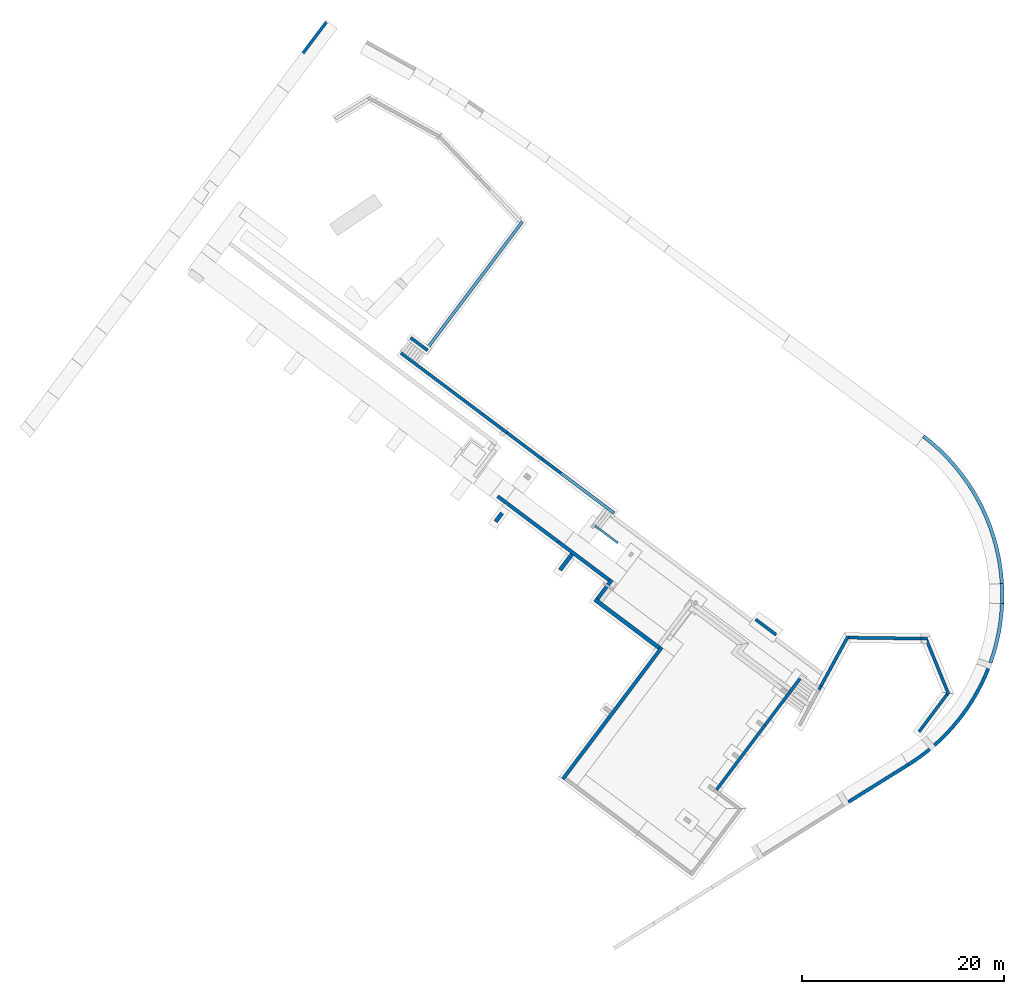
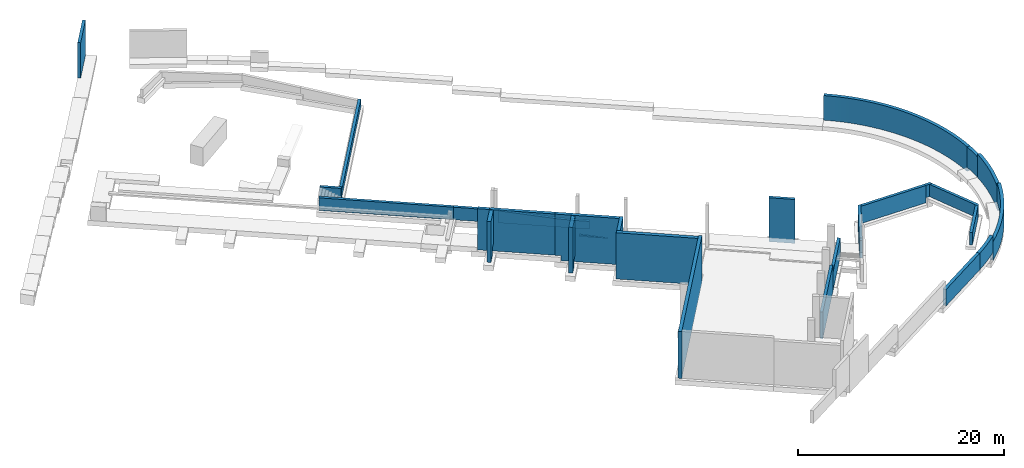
# One storey, part 5 of 9: 30 walls, 4 openings.
"""IFC2X3 building model written with IfcOpenShell, lengths in metres."""

from ifc_helpers import new_model, entity, si_unit, converted_unit, derived_unit, direction, frame, frame_2d, origin, place, context, subcontext, project, spatial, polyline, circle_curve, parameter, trimmed, segment, composite_curve, rectangle, outline, extrude, clip, halfspace, bounded_halfspace, material, layer, layer_set, layer_usage, type_object, element, save


model = new_model("IFC2X3")

# Units and contexts
model_context = context("Model", 3, precision=1e-05, world=origin(), true_north=direction((6.123031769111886e-17, 1.0)))
body_context = subcontext(model_context, "Body", "Model", "MODEL_VIEW")
ifc_project = project(units=[si_unit("LENGTHUNIT", "METRE"), si_unit("AREAUNIT", "SQUARE_METRE"), si_unit("VOLUMEUNIT", "CUBIC_METRE"), converted_unit("PLANEANGLEUNIT", "DEGREE", entity("IfcRatioMeasure", 0.017453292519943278), si_unit("PLANEANGLEUNIT", "RADIAN"), dimensions=[0, 0, 0, 0, 0, 0, 0]), si_unit("MASSUNIT", "GRAM", prefix="KILO"), derived_unit("MASSDENSITYUNIT", [(si_unit("MASSUNIT", "GRAM", prefix="KILO"), 1), (si_unit("LENGTHUNIT", "METRE"), -3)]), derived_unit("IONCONCENTRATIONUNIT", [(si_unit("MASSUNIT", "GRAM", prefix="KILO"), 1), (si_unit("LENGTHUNIT", "METRE"), -3)]), derived_unit("MOMENTOFINERTIAUNIT", [(si_unit("LENGTHUNIT", "METRE"), 4)]), si_unit("TIMEUNIT", "SECOND"), si_unit("FREQUENCYUNIT", "HERTZ"), si_unit("THERMODYNAMICTEMPERATUREUNIT", "DEGREE_CELSIUS"), derived_unit("THERMALTRANSMITTANCEUNIT", [(si_unit("MASSUNIT", "GRAM", prefix="KILO"), 1), (si_unit("THERMODYNAMICTEMPERATUREUNIT", "KELVIN"), -1), (si_unit("TIMEUNIT", "SECOND"), -3)]), derived_unit("THERMALCONDUCTANCEUNIT", [(si_unit("MASSUNIT", "GRAM", prefix="KILO"), 1), (si_unit("THERMODYNAMICTEMPERATUREUNIT", "KELVIN"), -1), (si_unit("TIMEUNIT", "SECOND"), -3), (si_unit("LENGTHUNIT", "METRE"), 1)]), derived_unit("VOLUMETRICFLOWRATEUNIT", [(si_unit("LENGTHUNIT", "METRE"), 3), (si_unit("TIMEUNIT", "SECOND"), -1)]), derived_unit("MASSFLOWRATEUNIT", [(si_unit("MASSUNIT", "GRAM", prefix="KILO"), 1), (si_unit("TIMEUNIT", "SECOND"), -1)]), derived_unit("ROTATIONALFREQUENCYUNIT", [(si_unit("TIMEUNIT", "SECOND"), -1)]), si_unit("ELECTRICCURRENTUNIT", "AMPERE"), si_unit("ELECTRICVOLTAGEUNIT", "VOLT"), si_unit("POWERUNIT", "WATT"), si_unit("FORCEUNIT", "NEWTON", prefix="KILO"), si_unit("ILLUMINANCEUNIT", "LUX"), si_unit("LUMINOUSFLUXUNIT", "LUMEN"), si_unit("LUMINOUSINTENSITYUNIT", "CANDELA"), derived_unit("USERDEFINED", [(si_unit("MASSUNIT", "GRAM", prefix="KILO"), -1), (si_unit("LENGTHUNIT", "METRE"), -2), (si_unit("TIMEUNIT", "SECOND"), 3), (si_unit("LUMINOUSFLUXUNIT", "LUMEN"), 1)]), derived_unit("USERDEFINED", [(si_unit("MASSUNIT", "GRAM", prefix="KILO"), 1), (si_unit("TIMEUNIT", "SECOND"), -3), (si_unit("LENGTHUNIT", "METRE"), 3), (si_unit("ELECTRICCURRENTUNIT", "AMPERE"), -2)]), derived_unit("SOUNDPOWERUNIT", [(si_unit("MASSUNIT", "GRAM", prefix="KILO"), 1), (si_unit("TIMEUNIT", "SECOND"), -3), (si_unit("LENGTHUNIT", "METRE"), 2)]), derived_unit("SOUNDPRESSUREUNIT", [(si_unit("MASSUNIT", "GRAM", prefix="KILO"), 1), (si_unit("LENGTHUNIT", "METRE"), -1), (si_unit("TIMEUNIT", "SECOND"), -2)]), derived_unit("LINEARVELOCITYUNIT", [(si_unit("LENGTHUNIT", "METRE"), 1), (si_unit("TIMEUNIT", "SECOND"), -1)]), si_unit("PRESSUREUNIT", "PASCAL"), derived_unit("USERDEFINED", [(si_unit("MASSUNIT", "GRAM", prefix="KILO"), 1), (si_unit("LENGTHUNIT", "METRE"), -2), (si_unit("TIMEUNIT", "SECOND"), -2)]), derived_unit("LINEARFORCEUNIT", [(si_unit("MASSUNIT", "GRAM", prefix="KILO"), 1), (si_unit("TIMEUNIT", "SECOND"), -2)]), derived_unit("PLANARFORCEUNIT", [(si_unit("MASSUNIT", "GRAM", prefix="KILO"), 1), (si_unit("LENGTHUNIT", "METRE"), -1), (si_unit("TIMEUNIT", "SECOND"), -2)]), derived_unit("SPECIFICHEATCAPACITYUNIT", [(si_unit("THERMODYNAMICTEMPERATUREUNIT", "KELVIN"), -1), (si_unit("LENGTHUNIT", "METRE"), 2), (si_unit("TIMEUNIT", "SECOND"), -2)]), derived_unit("HEATINGVALUEUNIT", [(si_unit("LENGTHUNIT", "METRE"), 2), (si_unit("TIMEUNIT", "SECOND"), -2)]), derived_unit("VAPORPERMEABILITYUNIT", [(si_unit("LENGTHUNIT", "METRE"), -1), (si_unit("TIMEUNIT", "SECOND"), 1)]), derived_unit("DYNAMICVISCOSITYUNIT", [(si_unit("MASSUNIT", "GRAM", prefix="KILO"), 1), (si_unit("TIMEUNIT", "SECOND"), -1), (si_unit("LENGTHUNIT", "METRE"), -1)]), derived_unit("THERMALEXPANSIONCOEFFICIENTUNIT", [(si_unit("THERMODYNAMICTEMPERATUREUNIT", "KELVIN"), -1)]), derived_unit("MODULUSOFELASTICITYUNIT", [(si_unit("MASSUNIT", "GRAM", prefix="KILO"), 1), (si_unit("LENGTHUNIT", "METRE"), -1), (si_unit("TIMEUNIT", "SECOND"), -2)]), derived_unit("ISOTHERMALMOISTURECAPACITYUNIT", [(si_unit("LENGTHUNIT", "METRE"), 3), (si_unit("MASSUNIT", "GRAM", prefix="KILO"), -1)]), derived_unit("MOISTUREDIFFUSIVITYUNIT", [(si_unit("TIMEUNIT", "SECOND"), -1), (si_unit("LENGTHUNIT", "METRE"), 2)])], contexts=[model_context])

# Site, building, storey
site_placement = place(None, origin())
site = spatial("IfcSite", under=ifc_project, at=site_placement, Name="Default", CompositionType="ELEMENT")
building_placement = place(site_placement, frame((0.0, 0.0, 235.0), z_axis=(0.0, 0.0, 1.0), x_axis=(-0.7996477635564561, 0.6004693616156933, 0.0)))
building = spatial("IfcBuilding", under=site, at=building_placement, CompositionType="ELEMENT")
storey_placement = place(building_placement, frame((0.0, 0.0, -5.4499999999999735)))
storey = spatial("IfcBuildingStorey", under=building, at=storey_placement, Name="PS1- Gimnàs", CompositionType="ELEMENT", Elevation=-5.4499999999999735)

# Walls
ifc_material = material(Name="_Formigó- T1- STR")
ifc_layer_1 = layer(ifc_material, 0.29999999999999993)
ifc_layer_set_1 = layer_set([ifc_layer_1], Name="Muro básico:STR- M- Formigó- Genèric- T1- 30 cm")
ifc_layer_usage_1 = layer_usage(ifc_layer_set_1, "AXIS2", "NEGATIVE", 0.14999999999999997)
wall_type_1 = type_object("IfcWallType", Name="Muro básico:STR- M- Formigó- Genèric- T1- 30 cm", PredefinedType="STANDARD", material=ifc_layer_set_1)
wall_1_placement = place(storey_placement, frame((2.9951476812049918, -26.33998938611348, -0.5500000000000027), z_axis=(0.0, 0.0, 1.0), x_axis=(0.0, -1.0, 0.0)))
element("IfcWallStandardCase", 1, at=wall_1_placement, inside=storey, type_object=wall_type_1, material=ifc_layer_usage_1, Name="Muro básico:STR- M- Formigó- Genèric- T1- 30 cm", ObjectType="Muro básico:STR- M- Formigó- Genèric- T1- 30 cm", context=body_context, shape_type="SweptSolid", body=[
    extrude(rectangle(XDim=8.050202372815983, YDim=0.30000000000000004, at=frame_2d((4.0251011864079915, 5.551115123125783e-17), x_axis=(-1.0, 0.0))), origin(), (0.0, 0.0, 1.0), 3.1659999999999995),
])
wall_2_placement = place(storey_placement, frame((0.887647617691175, -40.77661931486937, -0.5500000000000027), z_axis=(0.0, 0.0, 1.0), x_axis=(0.14461846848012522, -0.9894874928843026, 0.0)))
element("IfcWallStandardCase", 2, at=wall_2_placement, inside=storey, type_object=wall_type_1, material=ifc_layer_usage_1, Name="Muro básico:STR- M- Formigó- Genèric- T1- 30 cm", ObjectType="Muro básico:STR- M- Formigó- Genèric- T1- 30 cm", context=body_context, shape_type="SweptSolid", body=[
    extrude(outline(polyline([(5.7387059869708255, -0.15000000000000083), (5.580486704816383, 0.15000000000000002), (0.0, 0.14999999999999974), (0.0, -0.15000000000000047), (5.399540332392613, -0.15000000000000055), (5.7387059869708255, -0.15000000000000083)])), origin(), (0.0, 0.0, 1.0), 2.0599999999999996),
])
wall_3_placement = place(storey_placement, frame((1.6085242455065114, -46.26225387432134, -0.5500000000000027), z_axis=(0.0, 0.0, 1.0), x_axis=(-0.8077610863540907, -0.5895099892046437, 0.0)))
element("IfcWallStandardCase", 3, at=wall_3_placement, inside=storey, type_object=wall_type_1, material=ifc_layer_usage_1, Name="Muro básico:STR- M- Formigó- Genèric- T1- 30 cm", ObjectType="Muro básico:STR- M- Formigó- Genèric- T1- 30 cm", context=body_context, shape_type="SweptSolid", body=[
    extrude(outline(polyline([(7.21796286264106, -0.14999999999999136), (7.217962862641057, 0.15000000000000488), (0.15821928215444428, 0.150000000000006), (0.0, -0.14999999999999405), (7.21796286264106, -0.14999999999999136)])), origin(), (0.0, 0.0, 1.0), 2.0599999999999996),
])
wall_4_placement = place(storey_placement, frame((-4.711484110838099, -50.76130763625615, 0.0499999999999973), z_axis=(0.0, 0.0, 1.0), x_axis=(-0.8576796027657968, 0.5141844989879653, 0.0)))
element("IfcWallStandardCase", 4, at=wall_4_placement, inside=storey, type_object=wall_type_1, material=ifc_layer_usage_1, Name="Muro básico:STR- M- Formigó- Genèric- T1- 30 cm", ObjectType="Muro básico:STR- M- Formigó- Genèric- T1- 30 cm", context=body_context, shape_type="SweptSolid", body=[
    extrude(outline(polyline([(5.981547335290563, -0.15000000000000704), (5.8016953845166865, 0.15000000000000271), (0.12693971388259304, 0.14999999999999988), (0.0, -0.15000000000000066), (5.6317663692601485, -0.1500000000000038), (5.981547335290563, -0.15000000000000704)])), origin(), (0.0, 0.0, 1.0), 1.4599999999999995),
])
wall_5_placement = place(storey_placement, frame((-9.614607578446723, -47.73688872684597, 0.0499999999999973), z_axis=(0.0, 0.0, 1.0), x_axis=(0.0, 1.0, 0.0)))
element("IfcWallStandardCase", 5, at=wall_5_placement, inside=storey, type_object=wall_type_1, material=ifc_layer_usage_1, Name="Muro básico:STR- M- Formigó- Genèric- T1- 30 cm", ObjectType="Muro básico:STR- M- Formigó- Genèric- T1- 30 cm", context=body_context, shape_type="SweptSolid", body=[
    extrude(outline(polyline([(4.7300733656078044, -0.15000000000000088), (4.7300733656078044, 0.14999999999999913), (0.17985195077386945, 0.1499999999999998), (0.0, -0.15000000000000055), (4.7300733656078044, -0.15000000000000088)])), origin(), (0.0, 0.0, 1.0), 1.4599999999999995),
])

# Wall, opening
wall_6_placement = place(storey_placement, frame((27.602044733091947, -42.190189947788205, -0.5500000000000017)))
wall_6 = element("IfcWallStandardCase", 6, at=wall_6_placement, inside=storey, type_object=wall_type_1, material=ifc_layer_usage_1, Name="Muro básico:STR- M- Formigó- Genèric- T1- 30 cm", ObjectType="Muro básico:STR- M- Formigó- Genèric- T1- 30 cm", context=body_context, shape_type="Clipping", body=[
    clip(extrude(rectangle(XDim=8.899999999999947, YDim=0.3000000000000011, at=frame_2d((4.4499999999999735, 1.1796119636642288e-15), x_axis=(-1.0, 0.0))), origin(), (0.0, 0.0, 1.0), 1.4299999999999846), halfspace(frame((8.899999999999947, 0.0, 1.429999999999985), z_axis=(-0.057209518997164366, 0.0, 0.9983621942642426), x_axis=(0.0, 1.0, 0.0)), False)),
])
opening_1_placement = place(wall_6_placement, origin())
element("IfcOpeningElement", 7, at=opening_1_placement, cuts=wall_6, Name="Muro básico:STR- M- Formigó- Genèric- T1- 30 cm", ObjectType="Opening", context=body_context, shape_type="SweptSolid", body=[
    extrude(outline(polyline([(-5.7370771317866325, -0.04686132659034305), (3.177523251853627, -0.04686132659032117), (2.278997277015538, 0.004627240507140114), (0.28055660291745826, 0.0890954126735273), (-5.7370771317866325, -0.04686132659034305)])), frame((3.1750000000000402, 0.15000000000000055, 1.0549999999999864), z_axis=(0.0, -1.0, 0.0), x_axis=(-0.9983621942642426, 0.0, -0.057209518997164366)), (0.0, 0.0, 1.0), 0.2999999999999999),
])

# Walls
wall_7_placement = place(storey_placement, frame((-4.221865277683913, -50.51731508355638, 0.0499999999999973), z_axis=(0.0, 0.0, 1.0), x_axis=(-0.8077610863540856, -0.5895099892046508, 0.0)))
element("IfcWallStandardCase", 8, at=wall_7_placement, inside=storey, type_object=wall_type_1, material=ifc_layer_usage_1, Name="Muro básico:STR- M- Formigó- Genèric- T1- 30 cm", ObjectType="Muro básico:STR- M- Formigó- Genèric- T1- 30 cm", context=body_context, shape_type="SweptSolid", body=[
    extrude(outline(polyline([(0.7269397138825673, -0.14999999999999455), (0.5999999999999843, 0.15000000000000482), (0.0, 0.15000000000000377), (0.0, -0.14999999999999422), (0.40118874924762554, -0.14999999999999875), (0.7269397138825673, -0.14999999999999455)])), origin(), (0.0, 0.0, 1.0), 1.4599999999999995),
])
wall_8_placement = place(storey_placement, frame((0.8279988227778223, -40.368498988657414, -0.5500000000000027), z_axis=(0.0, 0.0, 1.0), x_axis=(0.14461846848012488, -0.9894874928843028, 0.0)))
element("IfcWallStandardCase", 9, at=wall_8_placement, inside=storey, type_object=wall_type_1, material=ifc_layer_usage_1, Name="Muro básico:STR- M- Formigó- Genèric- T1- 30 cm", ObjectType="Muro básico:STR- M- Formigó- Genèric- T1- 30 cm", context=body_context, shape_type="Clipping", body=[
    clip(extrude(rectangle(XDim=0.41245627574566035, YDim=0.30000000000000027, at=frame_2d((0.20622813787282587, 6.245004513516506e-16), x_axis=(-1.0, 0.0))), origin(), (0.0, 0.0, 1.0), 2.0599999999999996), bounded_halfspace(frame((0.0, -0.14999999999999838, 0.0), z_axis=(0.9894874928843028, -0.14461846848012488, 0.0), x_axis=(0.0, 0.0, -1.0)), True, frame((0.0, -0.14999999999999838, 0.0), z_axis=(0.9894874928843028, -0.14461846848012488, 0.0), x_axis=(0.0, 0.0, -1.0)), polyline([(0.0, 0.0), (0.0, 0.3031872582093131), (-2.06, 0.3031872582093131), (-2.06, 0.0), (0.0, 0.0)]))),
])
wall_9_placement = place(storey_placement, frame((36.50204473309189, -42.19018994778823, -0.5500000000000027)))
element("IfcWallStandardCase", 10, at=wall_9_placement, inside=storey, type_object=wall_type_1, material=ifc_layer_usage_1, Name="Muro básico:STR- M- Formigó- Genèric- T1- 30 cm", ObjectType="Muro básico:STR- M- Formigó- Genèric- T1- 30 cm", context=body_context, shape_type="Clipping", body=[
    clip(clip(extrude(rectangle(XDim=4.400000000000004, YDim=0.3000000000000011, at=frame_2d((2.200000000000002, 0.0), x_axis=(-1.0, 0.0))), origin(), (0.0, 0.0, 1.0), 1.490799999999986), halfspace(frame((0.0, -0.15000000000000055, 1.4319999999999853), z_axis=(-0.019996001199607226, 0.0, 0.999800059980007), x_axis=(0.0, 1.0, 0.0)), False)), halfspace(frame((2.939999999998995, -0.15000000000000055, 1.490799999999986), z_axis=(0.0005479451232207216, 0.0, 0.9999998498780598), x_axis=(0.0, 1.0, 0.0)), False)),
])
wall_10_placement = place(storey_placement, frame((40.9020447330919, -42.19018994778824, -0.5500000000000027)))
element("IfcWallStandardCase", 11, at=wall_10_placement, inside=storey, type_object=wall_type_1, material=ifc_layer_usage_1, Name="Muro básico:STR- M- Formigó- Genèric- T1- 30 cm", ObjectType="Muro básico:STR- M- Formigó- Genèric- T1- 30 cm", context=body_context, shape_type="SweptSolid", body=[
    extrude(rectangle(XDim=13.149999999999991, YDim=0.3000000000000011, at=frame_2d((6.574999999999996, 0.0), x_axis=(-1.0, 0.0))), origin(), (0.0, 0.0, 1.0), 1.4899999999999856),
])
wall_11_placement = place(storey_placement, frame((52.09514768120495, -43.990191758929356, -0.44999999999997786)))
element("IfcWallStandardCase", 12, at=wall_11_placement, inside=storey, type_object=wall_type_1, material=ifc_layer_usage_1, Name="Muro básico:STR- M- Formigó- Genèric- T1- 30 cm", ObjectType="Muro básico:STR- M- Formigó- Genèric- T1- 30 cm", context=body_context, shape_type="SweptSolid", body=[
    extrude(rectangle(XDim=2.099999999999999, YDim=0.3000000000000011, at=frame_2d((1.0499999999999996, 2.067790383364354e-15), x_axis=(-1.0, 0.0))), origin(), (0.0, 0.0, 1.0), 1.4199999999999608),
])
wall_12_placement = place(storey_placement, frame((52.24514768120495, -44.140191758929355, -0.44999999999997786), z_axis=(0.0, 0.0, 1.0), x_axis=(0.0, -1.0, 0.0)))
element("IfcWallStandardCase", 13, at=wall_12_placement, inside=storey, type_object=wall_type_1, material=ifc_layer_usage_1, Name="Muro básico:STR- M- Formigó- Genèric- T1- 30 cm", ObjectType="Muro básico:STR- M- Formigó- Genèric- T1- 30 cm", context=body_context, shape_type="SweptSolid", body=[
    extrude(outline(polyline([(15.701880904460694, -0.15000000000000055), (15.751841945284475, 0.15000000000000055), (15.4477102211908, 0.15000000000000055), (0.0, 0.15000000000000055), (0.0, -0.15000000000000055), (15.701880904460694, -0.15000000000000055)])), origin(), (0.0, 0.0, 1.0), 0.8699999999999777),
])
ifc_layer_usage_2 = layer_usage(ifc_layer_set_1, "AXIS2", "POSITIVE", -0.14999999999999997)
wall_13_placement = place(storey_placement, frame((79.69493788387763, -64.00163045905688, 0.3999999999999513), z_axis=(0.0, 0.0, 1.0), x_axis=(0.0, 1.0, 0.0)))
element("IfcWallStandardCase", 14, at=wall_13_placement, inside=storey, type_object=wall_type_1, material=ifc_layer_usage_2, Name="Muro básico:STR- M- Formigó- Genèric- T1- 30 cm", ObjectType="Muro básico:STR- M- Formigó- Genèric- T1- 30 cm", context=body_context, shape_type="SweptSolid", body=[
    extrude(rectangle(XDim=0.3000000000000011, YDim=3.8543416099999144, at=frame_2d((0.0, 4.3298697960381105e-15), x_axis=(1.0, 0.0))), frame((1.9271708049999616, 0.0, 0.0), z_axis=(0.0, 0.0, 1.0), x_axis=(0.0, 1.0, 0.0)), (0.0, 0.0, 1.0), 4.190000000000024),
])
wall_14_placement = place(storey_placement, frame((2.995147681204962, -34.39019175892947, -0.5500000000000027), z_axis=(0.0, 0.0, 1.0), x_axis=(0.0, -1.0, 0.0)))
element("IfcWallStandardCase", 15, at=wall_14_placement, inside=storey, type_object=wall_type_1, material=ifc_layer_usage_1, Name="Muro básico:STR- M- Formigó- Genèric- T1- 30 cm", ObjectType="Muro básico:STR- M- Formigó- Genèric- T1- 30 cm", context=body_context, shape_type="SweptSolid", body=[
    extrude(rectangle(XDim=6.000000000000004, YDim=0.30000000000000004, at=frame_2d((3.000000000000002, 4.163336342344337e-17), x_axis=(-1.0, 0.0))), origin(), (0.0, 0.0, 1.0), 2.2060000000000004),
])
wall_15_placement = place(storey_placement, frame((10.045147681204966, -42.1901917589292, -0.5500000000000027), z_axis=(0.0, 0.0, 1.0), x_axis=(-1.0, 0.0, 0.0)))
element("IfcWallStandardCase", 16, at=wall_15_placement, inside=storey, type_object=wall_type_1, material=ifc_layer_usage_1, Name="Muro básico:STR- M- Formigó- Genèric- T1- 30 cm", ObjectType="Muro básico:STR- M- Formigó- Genèric- T1- 30 cm", context=body_context, shape_type="SweptSolid", body=[
    extrude(rectangle(XDim=2.5500000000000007, YDim=0.3000000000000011, at=frame_2d((1.2750000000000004, 0.0), x_axis=(-1.0, 0.0))), origin(), (0.0, 0.0, 1.0), 5.209999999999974),
])
ifc_layer_2 = layer(ifc_material, 0.35)
ifc_layer_set_2 = layer_set([ifc_layer_2], Name="Muro básico:STR- M- Formigó- Genèric- T1- 35 cm")
ifc_layer_usage_3 = layer_usage(ifc_layer_set_2, "AXIS2", "POSITIVE", -0.175)
wall_type_2 = type_object("IfcWallType", Name="Muro básico:STR- M- Formigó- Genèric- T1- 35 cm", PredefinedType="STANDARD", material=ifc_layer_set_2)
wall_16_placement = place(storey_placement, frame((15.820147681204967, -18.040189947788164, -0.5500000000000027), z_axis=(0.0, 0.0, 1.0), x_axis=(0.0, -1.0, 0.0)))
element("IfcWallStandardCase", 17, at=wall_16_placement, inside=storey, type_object=wall_type_2, material=ifc_layer_usage_3, Name="Muro básico:STR- M- Formigó- Genèric- T1- 35 cm", ObjectType="Muro básico:STR- M- Formigó- Genèric- T1- 35 cm", context=body_context, shape_type="SweptSolid", body=[
    extrude(rectangle(XDim=16.349013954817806, YDim=0.3499999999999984, at=frame_2d((8.174506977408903, 0.0), x_axis=(-1.0, 0.0))), origin(), (0.0, 0.0, 1.0), 5.559999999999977),
])
wall_17_placement = place(storey_placement, frame((36.64514768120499, -36.59019175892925, 0.0499999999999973), z_axis=(0.0, 0.0, 1.0), x_axis=(-1.0, 0.0, 0.0)))
element("IfcWallStandardCase", 18, at=wall_17_placement, inside=storey, type_object=wall_type_2, material=ifc_layer_usage_3, Name="Muro básico:STR- M- Formigó- Genèric- T1- 35 cm", ObjectType="Muro básico:STR- M- Formigó- Genèric- T1- 35 cm", context=body_context, shape_type="Clipping", body=[
    clip(extrude(rectangle(XDim=6.350000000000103, YDim=0.3499999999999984, at=frame_2d((3.1750000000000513, 0.0), x_axis=(-1.0, 0.0))), origin(), (0.0, 0.0, 1.0), 4.879999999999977), bounded_halfspace(frame((0.30000000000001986, -0.1749999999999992, 4.879999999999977), z_axis=(0.0, 0.0, -1.0), x_axis=(-1.0, 0.0, 0.0)), True, frame((0.30000000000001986, -0.1749999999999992, 4.879999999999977)), polyline([(0.0, 0.0), (6.050000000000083, 0.0), (6.050000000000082, 0.3499999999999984), (0.0, 0.3499999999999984), (0.0, 0.0)]))),
])

# Wall, opening
wall_18_placement = place(storey_placement, frame((30.295147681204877, -36.59019175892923, -0.5500000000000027), z_axis=(0.0, 0.0, 1.0), x_axis=(-1.0, 0.0, 0.0)))
wall_18 = element("IfcWallStandardCase", 19, at=wall_18_placement, inside=storey, type_object=wall_type_2, material=ifc_layer_usage_3, Name="Muro básico:STR- M- Formigó- Genèric- T1- 35 cm", ObjectType="Muro básico:STR- M- Formigó- Genèric- T1- 35 cm", context=body_context, shape_type="Clipping", body=[
    clip(clip(clip(extrude(rectangle(XDim=6.299999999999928, YDim=0.3499999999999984, at=frame_2d((3.149999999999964, -2.914335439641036e-16), x_axis=(-1.0, 0.0))), origin(), (0.0, 0.0, 1.0), 5.4799999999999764), bounded_halfspace(frame((0.0, -0.1749999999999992, 5.4799999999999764), z_axis=(0.0, 0.0, -1.0), x_axis=(-1.0, 0.0, 0.0)), True, frame((0.0, -0.1749999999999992, 5.4799999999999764)), polyline([(0.0, 0.0), (6.299999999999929, 0.0), (6.299999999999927, 0.3499999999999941), (0.0, 0.3499999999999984), (0.0, 0.0)]))), bounded_halfspace(frame((0.599999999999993, -0.1749999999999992, 0.6000000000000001), z_axis=(1.0, 0.0, 0.0), x_axis=(0.0, 1.0, 0.0)), True, frame((0.599999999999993, -0.1749999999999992, 0.6000000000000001), z_axis=(1.0, 0.0, 0.0), x_axis=(0.0, 1.0, 0.0)), polyline([(0.0, 0.0), (0.0, -0.6000000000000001), (0.3499999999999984, -0.6000000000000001), (0.3499999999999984, 0.0), (0.0, 0.0)]))), bounded_halfspace(frame((0.5999999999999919, 0.1749999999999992, 0.6000000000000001)), True, frame((0.5999999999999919, 0.1749999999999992, 0.6000000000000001)), polyline([(0.0, 0.0), (-0.5999999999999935, 0.0), (-0.5999999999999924, -0.34999999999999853), (0.0, -0.3499999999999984), (0.0, 0.0)]))),
])
opening_2_placement = place(wall_18_placement, frame((2.0, -0.17500000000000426, 0.0)))
element("IfcOpeningElement", 20, at=opening_2_placement, cuts=wall_18, Name="Muro básico:STR- M- Formigó- Genèric- T1- 35 cm", ObjectType="Opening", context=body_context, shape_type="SweptSolid", body=[
    extrude(rectangle(XDim=0.8999999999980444, YDim=0.4, at=frame_2d((2.1649348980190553e-15, -5.273559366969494e-16), x_axis=(0.0, 1.0))), frame((-0.20000000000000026, -0.9000000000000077, 0.44999999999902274), z_axis=(0.0, 1.0, 0.0), x_axis=(-1.0, 0.0, 0.0)), (0.0, 0.0, 1.0), 0.9000000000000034),
])

# Walls
wall_19_placement = place(storey_placement, frame((37.84514768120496, -36.59019175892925, 0.0499999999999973), z_axis=(0.0, 0.0, 1.0), x_axis=(-1.0, 0.0, 0.0)))
element("IfcWallStandardCase", 21, at=wall_19_placement, inside=storey, type_object=wall_type_2, material=ifc_layer_usage_3, Name="Muro básico:STR- M- Formigó- Genèric- T1- 35 cm", ObjectType="Muro básico:STR- M- Formigó- Genèric- T1- 35 cm", context=body_context, shape_type="SweptSolid", body=[
    extrude(rectangle(XDim=1.1499999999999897, YDim=0.3499999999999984, at=frame_2d((0.5749999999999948, 0.0), x_axis=(-1.0, 0.0))), origin(), (0.0, 0.0, 1.0), 4.879999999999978),
])
ifc_layer_usage_4 = layer_usage(ifc_layer_set_2, "AXIS2", "NEGATIVE", 0.175)
wall_20_placement = place(storey_placement, frame((23.82014768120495, -36.765191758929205, -0.5500000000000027), z_axis=(0.0, 0.0, 1.0), x_axis=(0.0, 1.0, 0.0)))
element("IfcWallStandardCase", 22, at=wall_20_placement, inside=storey, type_object=wall_type_2, material=ifc_layer_usage_4, Name="Muro básico:STR- M- Formigó- Genèric- T1- 35 cm", ObjectType="Muro básico:STR- M- Formigó- Genèric- T1- 35 cm", context=body_context, shape_type="SweptSolid", body=[
    extrude(rectangle(XDim=2.3759878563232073, YDim=0.3499999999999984, at=frame_2d((1.1879939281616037, 0.0), x_axis=(-1.0, 0.0))), origin(), (0.0, 0.0, 1.0), 5.4799999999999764),
])
wall_21_placement = place(storey_placement, frame((-10.72372606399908, -39.743446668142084, -0.4750000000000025), z_axis=(0.0, 0.0, 1.0), x_axis=(0.36064614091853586, 0.9327027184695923, 0.0)))
element("IfcWallStandardCase", 23, at=wall_21_placement, inside=storey, type_object=wall_type_2, material=ifc_layer_usage_4, Name="Muro básico:STR- M- Formigó- Genèric- T1- 35 cm", ObjectType="Muro básico:STR- M- Formigó- Genèric- T1- 35 cm", context=body_context, shape_type="SweptSolid", body=[
    extrude(rectangle(XDim=6.974507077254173, YDim=0.35000000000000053, at=frame_2d((3.4872535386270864, -3.7470027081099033e-16), x_axis=(-1.0, 0.0))), origin(), (0.0, 0.0, 1.0), 1.9499999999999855),
])
wall_22_placement = place(storey_placement, frame((7.637907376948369, -66.71783542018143, -2.9750000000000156), z_axis=(0.0, 0.0, 1.0), x_axis=(-0.9117753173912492, 0.4106893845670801, 0.0)))
element("IfcWallStandardCase", 24, at=wall_22_placement, inside=storey, type_object=wall_type_2, material=ifc_layer_usage_3, Name="Muro básico:STR- M- Formigó- Genèric- T1- 35 cm", ObjectType="Muro básico:STR- M- Formigó- Genèric- T1- 35 cm", context=body_context, shape_type="SweptSolid", body=[
    extrude(outline(composite_curve([segment(trimmed(circle_curve(frame_2d((8.023944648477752, -18.12862204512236), x_axis=(1.0, 0.0)), 19.99999999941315), [parameter(64.52233856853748)], [parameter(113.87475352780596)], True, "PARAMETER"), True, "CONTINUOUS"), segment(polyline([(-0.07082927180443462, 0.16002566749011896), (0.07260890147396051, -0.15923808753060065)]), True, "CONTINUOUS"), segment(trimmed(circle_curve(frame_2d((8.023944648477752, -18.12862204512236), x_axis=(1.0, 0.0)), 19.64999999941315), [parameter(64.52233856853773)], [parameter(113.86907901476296)], True, "PARAMETER"), False, "CONTINUOUS"), segment(polyline([(16.476572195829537, -0.38952433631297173), (16.627127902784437, -0.07356076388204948)]), True, "CONTINUOUS")], self_intersect=False)), origin(), (0.0, 0.0, 1.0), 2.915000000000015),
])
wall_23_placement = place(storey_placement, frame((-7.358568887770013, -59.70905152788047, -2.4750000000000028), z_axis=(0.0, 0.0, 1.0), x_axis=(-0.9117753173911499, 0.41068938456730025, 0.0)))
element("IfcWallStandardCase", 25, at=wall_23_placement, inside=storey, type_object=wall_type_2, material=ifc_layer_usage_3, Name="Muro básico:STR- M- Formigó- Genèric- T1- 35 cm", ObjectType="Muro básico:STR- M- Formigó- Genèric- T1- 35 cm", context=body_context, shape_type="SweptSolid", body=[
    extrude(outline(composite_curve([segment(trimmed(circle_curve(frame_2d((-8.527905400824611, -17.897079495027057), x_axis=(1.0, 0.0)), 19.99999999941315), [parameter(58.74220745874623)], [parameter(64.52233856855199)], True, "PARAMETER"), True, "CONTINUOUS"), segment(polyline([(0.07527785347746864, 0.15798178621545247), (-0.07527785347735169, -0.15798178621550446)]), True, "CONTINUOUS"), segment(trimmed(circle_curve(frame_2d((-8.527905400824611, -17.897079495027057), x_axis=(1.0, 0.0)), 19.64999999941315), [parameter(58.74220745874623)], [parameter(64.52233856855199)], True, "PARAMETER"), False, "CONTINUOUS"), segment(polyline([(1.6682737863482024, -1.0994478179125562), (1.8498851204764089, -0.8002533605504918)]), True, "CONTINUOUS")], self_intersect=False)), origin(), (0.0, 0.0, 1.0), 2.415000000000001),
])
wall_24_placement = place(storey_placement, frame((-8.572360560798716, -58.120565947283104, -2.4750000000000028), z_axis=(0.0, 0.0, 1.0), x_axis=(-0.9327027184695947, 0.3606461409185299, 0.0)))
element("IfcWallStandardCase", 26, at=wall_24_placement, inside=storey, type_object=wall_type_2, material=ifc_layer_usage_3, Name="Muro básico:STR- M- Formigó- Genèric- T1- 35 cm", ObjectType="Muro básico:STR- M- Formigó- Genèric- T1- 35 cm", context=body_context, shape_type="SweptSolid", body=[
    extrude(outline(composite_curve([segment(trimmed(circle_curve(frame_2d((-11.190778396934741, -16.3645074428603), x_axis=(1.0, 0.0)), 19.99999999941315), [parameter(38.293409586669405)], [parameter(55.63394228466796)], True, "PARAMETER"), True, "CONTINUOUS"), segment(polyline([(0.09878366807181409, 0.1444534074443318), (-0.09878366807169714, -0.1444534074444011)]), True, "CONTINUOUS"), segment(trimmed(circle_curve(frame_2d((-11.190778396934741, -16.3645074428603), x_axis=(1.0, 0.0)), 19.64999999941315), [parameter(38.293409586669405)], [parameter(55.63394228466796)], True, "PARAMETER"), False, "CONTINUOUS"), segment(polyline([(4.231478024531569, -4.18762332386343), (4.506174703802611, -3.9707322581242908)]), True, "CONTINUOUS")], self_intersect=False)), origin(), (0.0, 0.0, 1.0), 2.749999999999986),
])
wall_25_placement = place(storey_placement, frame((-11.642665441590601, -42.856992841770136, -0.4750000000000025), z_axis=(0.0, 0.0, 1.0), x_axis=(-0.9327027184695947, 0.3606461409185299, 0.0)))
element("IfcWallStandardCase", 27, at=wall_25_placement, inside=storey, type_object=wall_type_2, material=ifc_layer_usage_3, Name="Muro básico:STR- M- Formigó- Genèric- T1- 35 cm", ObjectType="Muro básico:STR- M- Formigó- Genèric- T1- 35 cm", context=body_context, shape_type="SweptSolid", body=[
    extrude(outline(composite_curve([segment(trimmed(circle_curve(frame_2d((-19.559208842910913, -3.2354249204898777), x_axis=(1.0, 0.0)), 19.99999999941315), [parameter(5.903109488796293e-12)], [parameter(9.392640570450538)], True, "PARAMETER"), True, "CONTINUOUS"), segment(polyline([(0.17265379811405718, 0.028559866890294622), (-0.172653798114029, -0.028559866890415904)]), True, "CONTINUOUS"), segment(trimmed(circle_curve(frame_2d((-19.559208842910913, -3.2354249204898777), x_axis=(1.0, 0.0)), 19.64999999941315), [parameter(5.903109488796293e-12)], [parameter(9.392640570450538)], True, "PARAMETER"), False, "CONTINUOUS"), segment(polyline([(0.09079115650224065, -3.2354249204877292), (0.44079115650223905, -3.2354249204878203)]), True, "CONTINUOUS")], self_intersect=False)), origin(), (0.0, 0.0, 1.0), 1.949999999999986),
])
wall_26_placement = place(storey_placement, frame((-11.176037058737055, -52.740305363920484, -1.4750000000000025), z_axis=(0.0, 0.0, 1.0), x_axis=(-0.9327027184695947, 0.3606461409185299, 0.0)))
element("IfcWallStandardCase", 28, at=wall_26_placement, inside=storey, type_object=wall_type_2, material=ifc_layer_usage_3, Name="Muro básico:STR- M- Formigó- Genèric- T1- 35 cm", ObjectType="Muro básico:STR- M- Formigó- Genèric- T1- 35 cm", context=body_context, shape_type="SweptSolid", body=[
    extrude(outline(composite_curve([segment(trimmed(circle_curve(frame_2d((-15.559604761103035, -12.285329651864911), x_axis=(1.0, 0.0)), 19.99999999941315), [parameter(9.39264057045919)], [parameter(38.29340958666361)], True, "PARAMETER"), True, "CONTINUOUS"), segment(polyline([(0.13734833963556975, 0.10844553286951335), (-0.13734833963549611, -0.10844553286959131)]), True, "CONTINUOUS"), segment(trimmed(circle_curve(frame_2d((-15.559604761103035, -12.285329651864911), x_axis=(1.0, 0.0)), 19.64999999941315), [parameter(9.39264057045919)], [parameter(38.29340958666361)], True, "PARAMETER"), False, "CONTINUOUS"), segment(polyline([(3.826950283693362, -9.078464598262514), (4.172257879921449, -9.02134486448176)]), True, "CONTINUOUS")], self_intersect=False)), origin(), (0.0, 0.0, 1.0), 2.2499999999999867),
])
ifc_layer_3 = layer(ifc_material, 0.4)
ifc_layer_set_3 = layer_set([ifc_layer_3], Name="Muro básico:STR- M- Formigó- Genèric- T1- 40 cm")
ifc_layer_usage_5 = layer_usage(ifc_layer_set_3, "AXIS2", "POSITIVE", -0.2)
wall_type_3 = type_object("IfcWallType", Name="Muro básico:STR- M- Formigó- Genèric- T1- 40 cm", PredefinedType="STANDARD", material=ifc_layer_set_3)
wall_27_placement = place(storey_placement, frame((15.995147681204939, -34.189203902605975, -0.5500000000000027)))
element("IfcWallStandardCase", 29, at=wall_27_placement, inside=storey, type_object=wall_type_3, material=ifc_layer_usage_5, Name="Muro básico:STR- M- Formigó- Genèric- T1- 40 cm", ObjectType="Muro básico:STR- M- Formigó- Genèric- T1- 40 cm", context=body_context, shape_type="Clipping", body=[
    clip(extrude(rectangle(XDim=8.000000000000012, YDim=0.40000000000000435, at=frame_2d((4.000000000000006, 5.967448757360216e-16), x_axis=(-1.0, 0.0))), origin(), (0.0, 0.0, 1.0), 5.559999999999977), bounded_halfspace(frame((0.0, -0.19999999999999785, 5.4799999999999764), z_axis=(0.0, 0.0, -1.0), x_axis=(1.0, 0.0, 0.0)), True, frame((0.0, -0.19999999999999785, 5.4799999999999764)), polyline([(0.0, 0.0), (7.999657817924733, 0.0), (7.999657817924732, 0.4), (0.0, 0.4), (0.0, 0.0)]))),
])

# Wall, opening
ifc_layer_usage_6 = layer_usage(ifc_layer_set_3, "AXIS2", "NEGATIVE", 0.2)
wall_28_placement = place(storey_placement, frame((36.495147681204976, -36.41519175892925, 0.0499999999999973), z_axis=(0.0, 0.0, 1.0), x_axis=(0.0, 1.0, 0.0)))
wall_28 = element("IfcWallStandardCase", 30, at=wall_28_placement, inside=storey, type_object=wall_type_3, material=ifc_layer_usage_6, Name="Muro básico:STR- M- Formigó- Genèric- T1- 40 cm", ObjectType="Muro básico:STR- M- Formigó- Genèric- T1- 40 cm", context=body_context, shape_type="SweptSolid", body=[
    extrude(rectangle(XDim=1.9599999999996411, YDim=0.3999999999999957, at=frame_2d((0.9799999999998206, 9.992007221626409e-16), x_axis=(-1.0, 0.0))), origin(), (0.0, 0.0, 1.0), 4.829999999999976),
])
opening_3_placement = place(wall_28_placement, frame((0.0, 1.7239999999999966, 0.0), z_axis=(0.0, 0.0, 1.0), x_axis=(0.0, -1.0, 0.0)))
element("IfcOpeningElement", 31, at=opening_3_placement, cuts=wall_28, Name="Muro básico:STR- M- Formigó- Genèric- T1- 40 cm", ObjectType="Opening", context=body_context, shape_type="SweptSolid", body=[
    extrude(rectangle(XDim=0.8999999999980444, YDim=0.899999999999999, at=frame_2d((-5.273559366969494e-16, 2.1649348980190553e-15), x_axis=(1.0, 0.0))), frame((3.048, 0.4500000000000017, 0.44999999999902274), z_axis=(-1.0, 0.0, 0.0), x_axis=(0.0, 0.0, 1.0)), (0.0, 0.0, 1.0), 3.048),
])

wall_29_placement = place(storey_placement, frame((28.495147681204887, -36.41519175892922, -0.5500000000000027), z_axis=(0.0, 0.0, 1.0), x_axis=(0.0, 1.0, 0.0)))
wall_29 = element("IfcWallStandardCase", 32, at=wall_29_placement, inside=storey, type_object=wall_type_3, material=ifc_layer_usage_6, Name="Muro básico:STR- M- Formigó- Genèric- T1- 40 cm", ObjectType="Muro básico:STR- M- Formigó- Genèric- T1- 40 cm", context=body_context, shape_type="SweptSolid", body=[
    extrude(rectangle(XDim=1.9599999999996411, YDim=0.3999999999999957, at=frame_2d((0.9799999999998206, 9.992007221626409e-16), x_axis=(-1.0, 0.0))), origin(), (0.0, 0.0, 1.0), 5.429999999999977),
])
opening_4_placement = place(wall_29_placement, frame((0.0, 1.7239999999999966, 0.0), z_axis=(0.0, 0.0, 1.0), x_axis=(0.0, -1.0, 0.0)))
element("IfcOpeningElement", 33, at=opening_4_placement, cuts=wall_29, Name="Muro básico:STR- M- Formigó- Genèric- T1- 40 cm", ObjectType="Opening", context=body_context, shape_type="SweptSolid", body=[
    extrude(rectangle(XDim=0.8999999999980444, YDim=0.899999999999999, at=frame_2d((-5.273559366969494e-16, -2.1649348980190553e-15), x_axis=(1.0, 0.0))), frame((3.048, 0.450000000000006, 0.44999999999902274), z_axis=(-1.0, 0.0, 0.0), x_axis=(0.0, 0.0, 1.0)), (0.0, 0.0, 1.0), 3.048),
])

# Wall
ifc_layer_4 = layer(ifc_material, 0.2)
ifc_layer_set_4 = layer_set([ifc_layer_4], Name="Muro básico:STR- M- Formigó- Genèric- T1- 20 cm")
ifc_layer_usage_7 = layer_usage(ifc_layer_set_4, "AXIS2", "POSITIVE", -0.1)
wall_type_4 = type_object("IfcWallType", Name="Muro básico:STR- M- Formigó- Genèric- T1- 20 cm", PredefinedType="STANDARD", material=ifc_layer_set_4)
wall_30_placement = place(storey_placement, frame((25.519933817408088, -40.04019175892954, -0.030000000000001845)))
element("IfcWallStandardCase", 34, at=wall_30_placement, inside=storey, type_object=wall_type_4, material=ifc_layer_usage_7, Name="Muro básico:STR- M- Formigó- Genèric- T1- 20 cm", ObjectType="Muro básico:STR- M- Formigó- Genèric- T1- 20 cm", context=body_context, shape_type="Clipping", body=[
    clip(extrude(rectangle(XDim=2.8252138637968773, YDim=0.2000000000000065, at=frame_2d((1.4126069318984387, 5.689893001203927e-16), x_axis=(-1.0, 0.0))), origin(), (0.0, 0.0, 1.0), 0.22600164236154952), halfspace(frame((0.0, -0.0999999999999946, 0.0), z_axis=(-0.0797397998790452, 0.0, 0.9968157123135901), x_axis=(0.0, 1.0, 0.0)), False)),
])

save(model, "model.ifc")
